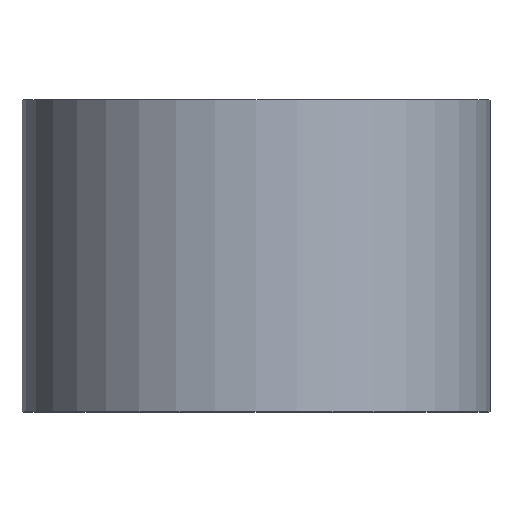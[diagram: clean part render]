
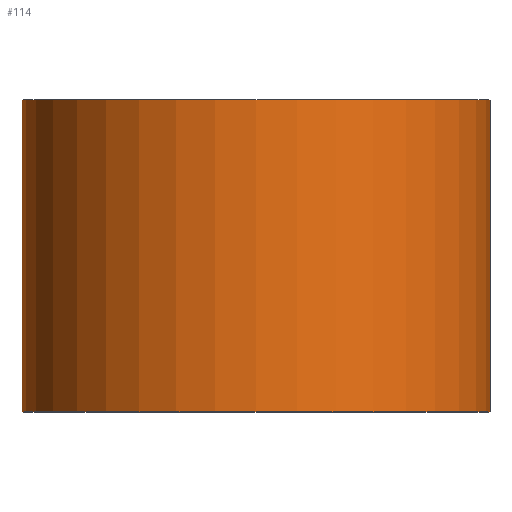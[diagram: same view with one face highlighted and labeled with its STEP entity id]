
A CAD part, top view. The second image highlights one B-rep face of the part: STEP entity #114.
In plain terms, the highlighted cylindrical face has radius 9 mm (diameter 18 mm), a partial arc.
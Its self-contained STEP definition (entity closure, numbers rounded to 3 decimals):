
#10 = DIRECTION ( 'NONE',  ( 0., 1., 0. ) ) ;
#14 = ORIENTED_EDGE ( 'NONE', *, *, #26, .F. ) ;
#15 = CARTESIAN_POINT ( 'NONE',  ( 0., 12., 0. ) ) ;
#16 = CARTESIAN_POINT ( 'NONE',  ( 0., 0., 0. ) ) ;
#21 = AXIS2_PLACEMENT_3D ( 'NONE', #147, #218, #241 ) ;
#24 = VERTEX_POINT ( 'NONE', #219 ) ;
#26 = EDGE_CURVE ( 'NONE', #222, #273, #235, .T. ) ;
#28 = LINE ( 'NONE', #36, #271 ) ;
#36 = CARTESIAN_POINT ( 'NONE',  ( 9., 0., 0. ) ) ;
#76 = CARTESIAN_POINT ( 'NONE',  ( -9., 0., 0. ) ) ;
#80 = ORIENTED_EDGE ( 'NONE', *, *, #117, .F. ) ;
#85 = AXIS2_PLACEMENT_3D ( 'NONE', #15, #156, #158 ) ;
#112 = EDGE_CURVE ( 'NONE', #222, #24, #146, .T. ) ;
#114 = ADVANCED_FACE ( 'NONE', ( #250 ), #153, .T. ) ;
#117 = EDGE_CURVE ( 'NONE', #273, #181, #212, .T. ) ;
#122 = EDGE_LOOP ( 'NONE', ( #192, #134, #80, #14 ) ) ;
#127 = CARTESIAN_POINT ( 'NONE',  ( -9., 0., 0. ) ) ;
#129 = DIRECTION ( 'NONE',  ( -1., 0., 0. ) ) ;
#134 = ORIENTED_EDGE ( 'NONE', *, *, #248, .T. ) ;
#146 = CIRCLE ( 'NONE', #193, 9. ) ;
#147 = CARTESIAN_POINT ( 'NONE',  ( 0., 0., 0. ) ) ;
#152 = DIRECTION ( 'NONE',  ( 0., 1., 0. ) ) ;
#153 = CYLINDRICAL_SURFACE ( 'NONE', #21, 9. ) ;
#156 = DIRECTION ( 'NONE',  ( 0., 1., 0. ) ) ;
#158 = DIRECTION ( 'NONE',  ( -1., 0., 0. ) ) ;
#181 = VERTEX_POINT ( 'NONE', #201 ) ;
#192 = ORIENTED_EDGE ( 'NONE', *, *, #112, .T. ) ;
#193 = AXIS2_PLACEMENT_3D ( 'NONE', #16, #152, #129 ) ;
#201 = CARTESIAN_POINT ( 'NONE',  ( 9., 12., 0. ) ) ;
#212 = CIRCLE ( 'NONE', #85, 9. ) ;
#218 = DIRECTION ( 'NONE',  ( 0., 1., 0. ) ) ;
#219 = CARTESIAN_POINT ( 'NONE',  ( 9., 0., 0. ) ) ;
#222 = VERTEX_POINT ( 'NONE', #127 ) ;
#235 = LINE ( 'NONE', #76, #283 ) ;
#241 = DIRECTION ( 'NONE',  ( -1., 0., 0. ) ) ;
#248 = EDGE_CURVE ( 'NONE', #24, #181, #28, .T. ) ;
#250 = FACE_OUTER_BOUND ( 'NONE', #122, .T. ) ;
#255 = CARTESIAN_POINT ( 'NONE',  ( -9., 12., 0. ) ) ;
#271 = VECTOR ( 'NONE', #295, 1000. ) ;
#273 = VERTEX_POINT ( 'NONE', #255 ) ;
#283 = VECTOR ( 'NONE', #10, 1000. ) ;
#295 = DIRECTION ( 'NONE',  ( 0., 1., 0. ) ) ;
